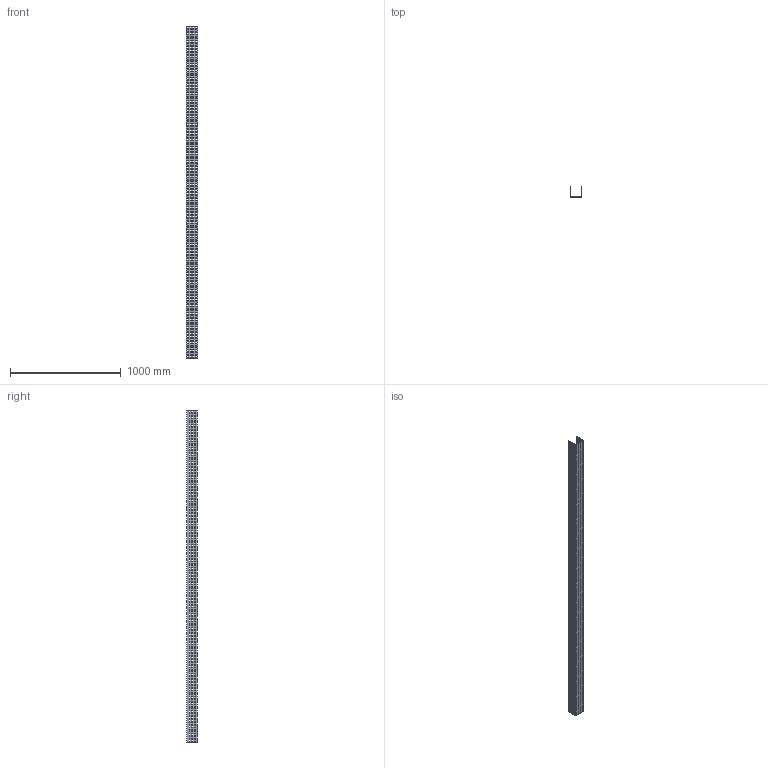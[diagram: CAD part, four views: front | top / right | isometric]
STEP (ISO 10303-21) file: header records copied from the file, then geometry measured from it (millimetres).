
FILE_DESCRIPTION (( 'STEP AP214' ), '1' );
FILE_NAME ('01B3I100.step', '2025-02-21T10:23:11', ( '' ), ( '' ), 'SwSTEP 2.0', 'SolidWorks 2023', '' );
FILE_SCHEMA (( 'AUTOMOTIVE_DESIGN' ));
Length unit declared in the file: millimetre
Products named in the file (1): 01B3I100
Bounding box: 104 x 92.5 x 3000 mm (x, y, z)
Volume: 2520000 mm3; surface area: 1624254 mm2
Topology: 1 solids, 1 shells, 2890 faces, 8664 edges, 5776 vertices
Faces by surface type: plane 2890
Entity records: 98231 total; most frequent: CARTESIAN_POINT 17331, ORIENTED_EDGE 17328, DIRECTION 14446, VECTOR 8664, EDGE_CURVE 8664, LINE 8664, VERTEX_POINT 5776, EDGE_LOOP 4330
